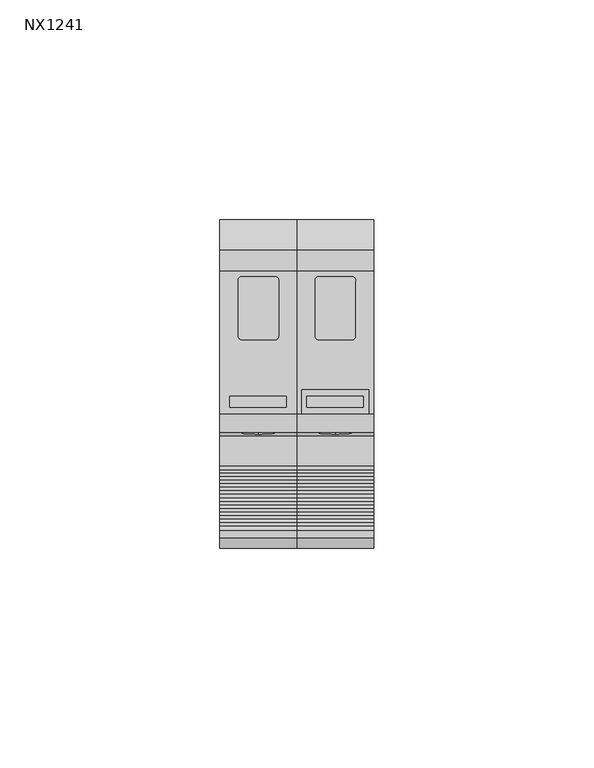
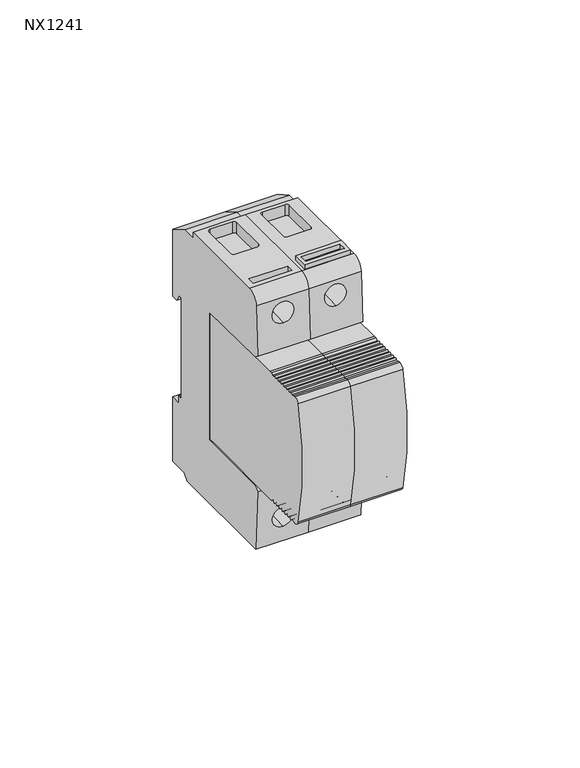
"""IFC4 building model written with IfcOpenShell, lengths in millimetres: proxy geometry, КНС_УЗИП_классI+II_DKC : NX1241."""

from ifc_helpers import new_model, si_unit, point, frame, frame_2d, origin, place, context, project, spatial, polyline, circle_curve, ellipse_curve, trimmed, segment, composite_curve, outline, extrude, source, transform, mapped, element, save
from ifc_brep_helpers import plane_surface, cylinder_surface, revolved_surface, advanced_brep


def nx1241_6f42e53b(model_context):
    return source(origin(), model_context, "Body", "SolidModel", [
        advanced_brep(
        [(52.5, 1.2, 17.438194), (52.5, 2.7207259, 14.938194), (52.5, 5.0, 14.938194), (52.5, 5.0, 38.7044771), (52.5, -1.7972569, 42.6288752), (52.5, -6.7, 42.5860896), (52.5, -6.6806922, 44.688194), (52.5, -39.1559657, 44.688194), (52.5, -43.2612234, 40.8404952), (52.5, -44.1501875, 23.5687496), (52.5, -42.5975423, 22.4685618), (52.5, -16.1999972, 22.2381939), (52.5, -16.1999972, -22.861806), (52.5, -42.5975423, -23.0921739), (52.5, -44.149783, -24.192075), (52.5, -43.0654073, -45.2646007), (52.5, -3.2721098, -45.2646007), (52.5, -1.6937526, -43.2533905), (52.5, 5.0, -43.311806), (52.5, 5.0, -20.561806), (52.5, 1.5, -20.561806), (52.5, 1.5, -18.061806), (52.5, 0.0, -18.061806), (52.5, 0.0, 17.438194), (35.0, 1.2, 17.438194), (35.0, 0.0, 17.438194), (35.0, 0.0, -18.061806), (35.0, 1.5, -18.061806), (35.0, 1.5, -20.561806), (35.0, 5.0, -20.561806), (35.0, 5.0, -43.311806), (35.0, -1.6937526, -43.2533905), (35.0, -3.2721098, -45.2646007), (35.0, -43.0654073, -45.2646007), (35.0, -44.149783, -24.192075), (35.0, -42.5975423, -23.0921739), (35.0, -16.1999972, -22.861806), (35.0, -16.1999972, 22.2381939), (35.0, -42.5975423, 22.4685618), (35.0, -44.1501875, 23.5687496), (35.0, -43.2612234, 40.8404952), (35.0, -39.1559657, 44.688194), (35.0, -6.6806922, 44.688194), (35.0, -6.7, 42.5860896), (35.0, -1.7972569, 42.6288752), (35.0, 5.0, 38.7044771), (35.0, 5.0, 14.938194), (35.0, 2.7207259, 14.938194), (37.251655, -35.102599, 44.688194), (50.147402, -35.102599, 44.688194), (50.1473955, -37.6473987, 44.688194), (37.2596285, -37.6473987, 44.688194), (39.1464467, -8.7059631, 44.688194), (39.9559631, -7.8964466, 44.688194), (47.543988, -7.8964466, 44.688194), (48.3535534, -8.9059631, 44.688194), (48.3535534, -21.4940369, 44.688194), (47.5440369, -22.3035534, 44.688194), (39.9559631, -22.3035534, 44.688194), (39.1464467, -21.2943613, 44.688194), (43.75, -43.7122623, 32.0772292), (43.75, -43.3399564, 39.3107864), (43.75, -43.3425137, -39.8796286), (43.75, -43.7053358, -32.8289577), (50.147402, -35.102599, 40.688194), (37.251655, -35.102599, 40.688194), (37.2596285, -37.6473987, 40.688194), (50.1473955, -37.6473987, 40.688194), (43.75, -32.0563306, 32.6770343), (43.75, -32.241464, 36.2747068), (43.75, -32.4265974, 39.8723793), (43.75, -28.3623348, -39.1087603), (43.75, -28.5437458, -35.5834249), (43.75, -28.7251568, -32.0580894), (39.9559631, -7.8964466, 40.688194), (39.1464467, -8.7059631, 40.688194), (39.1464467, -21.2943613, 40.688194), (39.9559631, -22.3035534, 40.688194), (47.5440369, -22.3035534, 40.688194), (48.3535534, -21.4940369, 40.688194), (48.3535534, -8.9059631, 40.688194), (47.543988, -7.8964466, 40.688194)],
        [
            (0, 1),
            (1, 2),
            (2, 3),
            (3, 4),
            (4, 5),
            (5, 6),
            (6, 7),
            (7, 8, circle_curve(frame((52.5, -39.1559657, 40.574316), z_axis=(1.0, 0.0, 0.0), x_axis=(0.0, -1.0, 0.0)), 4.113878)),
            (8, 9),
            (9, 10),
            (10, 11),
            (11, 12),
            (12, 13),
            (13, 14),
            (14, 15),
            (15, 16),
            (16, 17),
            (17, 18),
            (18, 19),
            (19, 20),
            (20, 21),
            (21, 22),
            (22, 23),
            (23, 0),
            (24, 25),
            (25, 26),
            (26, 27),
            (27, 28),
            (28, 29),
            (29, 30),
            (30, 31),
            (31, 32),
            (32, 33),
            (33, 34),
            (34, 35),
            (35, 36),
            (36, 37),
            (37, 38),
            (38, 39),
            (39, 40),
            (40, 41, circle_curve(frame((35.0, -39.1559657, 40.574316), z_axis=(-1.0, 0.0, 0.0), x_axis=(0.0, -1.0, 0.0)), 4.113878)),
            (41, 42),
            (42, 43),
            (43, 44),
            (44, 45),
            (45, 46),
            (46, 47),
            (47, 24),
            (0, 24),
            (47, 1),
            (46, 2),
            (45, 3),
            (44, 4),
            (43, 5),
            (42, 6),
            (41, 7),
            (48, 49),
            (49, 50),
            (50, 51),
            (51, 48),
            (52, 53, circle_curve(frame((39.9559631, -8.7059631, 44.688194), z_axis=(0.0, 0.0, -1.0), x_axis=(1.0, 0.0, 0.0)), 0.8095165)),
            (53, 54),
            (54, 55, circle_curve(frame((47.543988, -8.7258138, 44.688194), z_axis=(0.0, 0.0, -1.0), x_axis=(1.0, 0.0, 0.0)), 0.8293672)),
            (55, 56),
            (56, 57, circle_curve(frame((47.5440369, -21.4940369, 44.688194), z_axis=(0.0, 0.0, -1.0), x_axis=(1.0, 0.0, 0.0)), 0.8095165)),
            (57, 58),
            (58, 59, circle_curve(frame((40.1802649, -21.2943613, 44.688194), z_axis=(0.0, 0.0, -1.0), x_axis=(1.0, 0.0, 0.0)), 1.0338181)),
            (59, 52),
            (40, 8),
            (39, 9),
            (60, 61, ellipse_curve(frame((43.75, -43.5261093, 35.6940078), z_axis=(0.0, 0.9986780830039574, -0.05140123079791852), x_axis=(0.0, -0.0514012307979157, -0.9986780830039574)), 3.621566, 3.6024328)),
            (61, 60, ellipse_curve(frame((43.75, -43.5261093, 35.6940078), z_axis=(0.0, 0.9986780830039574, -0.05140123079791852), x_axis=(0.0, -0.0514012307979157, -0.9986780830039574)), 3.621566, 3.6024328)),
            (38, 10),
            (37, 11),
            (36, 12),
            (35, 13),
            (34, 14),
            (33, 15),
            (62, 63, circle_curve(frame((43.75, -43.5239247, -36.3542932), z_axis=(0.0, 0.9986785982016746, 0.051391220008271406), x_axis=(0.0, -0.05139122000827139, 0.9986785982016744)), 3.53)),
            (63, 62, circle_curve(frame((43.75, -43.5239247, -36.3542932), z_axis=(0.0, 0.9986785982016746, 0.051391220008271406), x_axis=(0.0, -0.05139122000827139, 0.9986785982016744)), 3.53)),
            (32, 16),
            (31, 17),
            (30, 18),
            (29, 19),
            (28, 20),
            (27, 21),
            (26, 22),
            (25, 23),
            (64, 65),
            (65, 66),
            (66, 67),
            (67, 64),
            (64, 49),
            (48, 65),
            (51, 66),
            (50, 67),
            (68, 69),
            (69, 70),
            (70, 68, circle_curve(frame((43.75, -32.241464, 36.2747068), z_axis=(0.0, -0.9986785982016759, -0.051391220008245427), x_axis=(0.0, -0.05139122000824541, 0.9986785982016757)), 3.6024328)),
            (68, 70, circle_curve(frame((43.75, -32.241464, 36.2747068), z_axis=(0.0, -0.9986785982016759, -0.051391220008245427), x_axis=(0.0, -0.05139122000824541, 0.9986785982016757)), 3.6024328)),
            (70, 61),
            (60, 68),
            (71, 72),
            (72, 73),
            (73, 71, circle_curve(frame((43.75, -28.5437458, -35.5834249), z_axis=(0.0, -0.9986785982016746, -0.051391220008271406), x_axis=(0.0, -0.05139122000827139, 0.9986785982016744)), 3.53)),
            (71, 73, circle_curve(frame((43.75, -28.5437458, -35.5834249), z_axis=(0.0, -0.9986785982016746, -0.051391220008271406), x_axis=(0.0, -0.05139122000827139, 0.9986785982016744)), 3.53)),
            (73, 63),
            (62, 71),
            (74, 75, circle_curve(frame((39.9559631, -8.7059631, 40.688194), z_axis=(0.0, 0.0, 1.0), x_axis=(1.0, 0.0, 0.0)), 0.8095165)),
            (75, 76),
            (76, 77, circle_curve(frame((40.1802649, -21.2943613, 40.688194), z_axis=(0.0, 0.0, 1.0), x_axis=(1.0, 0.0, 0.0)), 1.0338181)),
            (77, 78),
            (78, 79, circle_curve(frame((47.5440369, -21.4940369, 40.688194), z_axis=(0.0, 0.0, 1.0), x_axis=(1.0, 0.0, 0.0)), 0.8095165)),
            (79, 80),
            (80, 81, circle_curve(frame((47.543988, -8.7258138, 40.688194), z_axis=(0.0, 0.0, 1.0), x_axis=(1.0, 0.0, 0.0)), 0.8293672)),
            (81, 74),
            (74, 53),
            (52, 75),
            (59, 76),
            (58, 77),
            (57, 78),
            (56, 79),
            (55, 80),
            (54, 81),
        ],
        [
            plane_surface(frame((52.5, 1.2, 17.438194), z_axis=(1.0, 0.0, 0.0), x_axis=(0.0, 0.5196942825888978, -0.8543523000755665))),
            plane_surface(frame((35.0, 1.2, 17.438194), z_axis=(-1.0, 0.0, 0.0), x_axis=(0.0, -0.5196942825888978, 0.8543523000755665))),
            plane_surface(frame((52.5, 1.2, 17.438194), z_axis=(0.0, -0.8543523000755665, -0.5196942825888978), x_axis=(-1.0, 0.0, 0.0))),
            plane_surface(frame((52.5, 2.7207259, 14.938194), z_axis=(0.0, 0.0, -1.0), x_axis=(-1.0, 0.0, 0.0))),
            plane_surface(frame((52.5, 5.0, 14.938194), z_axis=(0.0, 1.0, 0.0), x_axis=(-1.0, 0.0, 0.0))),
            plane_surface(frame((52.5, 5.0, 38.7044771), z_axis=(0.0, 0.49999999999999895, 0.8660254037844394), x_axis=(-1.0, 0.0, 0.0))),
            plane_surface(frame((52.5, -1.7972569, 42.6288752), z_axis=(0.0, -0.008726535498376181, 0.9999619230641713), x_axis=(-1.0, 0.0, 0.0))),
            plane_surface(frame((52.5, -6.7, 42.5860896), z_axis=(0.0, 0.9999578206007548, -0.009184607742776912), x_axis=(-1.0, 0.0, 0.0))),
            plane_surface(frame((52.5, -6.6806922, 44.688194), z_axis=(0.0, 0.0, 1.0), x_axis=(-1.0, 0.0, 0.0))),
            cylinder_surface(frame((35.0, -39.1559657, 40.574316), z_axis=(1.0, 0.0, 0.0), x_axis=(0.0, -1.0, 0.0)), 4.113878),
            plane_surface(frame((52.5, -43.2612234, 40.8404952), z_axis=(0.0, -0.9986780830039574, 0.05140123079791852), x_axis=(-1.0, 0.0, 0.0))),
            plane_surface(frame((52.5, -44.1501875, 23.5687496), z_axis=(0.0, -0.5781564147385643, -0.8159259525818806), x_axis=(-1.0, 0.0, 0.0))),
            plane_surface(frame((52.5, -42.5975423, 22.4685618), z_axis=(0.0, -0.00872653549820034, -0.9999619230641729), x_axis=(-1.0, 0.0, 0.0))),
            plane_surface(frame((52.5, -16.1999972, 22.2381939), z_axis=(0.0, -1.0, 0.0), x_axis=(-1.0, 0.0, 0.0))),
            plane_surface(frame((52.5, -16.1999972, -22.861806), z_axis=(0.0, -0.008726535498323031, 0.9999619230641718), x_axis=(-1.0, 0.0, 0.0))),
            plane_surface(frame((52.5, -42.5975423, -23.0921739), z_axis=(0.0, -0.5781564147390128, 0.8159259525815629), x_axis=(-1.0, 0.0, 0.0))),
            plane_surface(frame((52.5, -44.149783, -24.192075), z_axis=(0.0, -0.9986785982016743, -0.05139122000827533), x_axis=(-1.0, 0.0, 0.0))),
            plane_surface(frame((52.5, -43.0654073, -45.2646007), z_axis=(0.0, 0.0, -1.0), x_axis=(-1.0, 0.0, 0.0))),
            plane_surface(frame((52.5, -3.2721098, -45.2646007), z_axis=(0.0, 0.7866753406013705, -0.6173669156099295), x_axis=(-1.0, 0.0, 0.0))),
            plane_surface(frame((52.5, -1.6937526, -43.2533905), z_axis=(0.0, -0.008726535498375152, -0.9999619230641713), x_axis=(-1.0, 0.0, 0.0))),
            plane_surface(frame((52.5, 5.0, -43.311806), z_axis=(0.0, 1.0, 0.0), x_axis=(-1.0, 0.0, 0.0))),
            plane_surface(frame((52.5, 5.0, -20.561806), z_axis=(0.0, 0.0, 1.0), x_axis=(-1.0, 0.0, 0.0))),
            plane_surface(frame((52.5, 1.5, -20.561806), z_axis=(0.0, 1.0, 0.0), x_axis=(-1.0, 0.0, 0.0))),
            plane_surface(frame((52.5, 1.5, -18.061806), z_axis=(0.0, 0.0, 1.0), x_axis=(-1.0, 0.0, 0.0))),
            plane_surface(frame((52.5, 0.0, -18.061806), z_axis=(0.0, 1.0, 0.0), x_axis=(-1.0, 0.0, 0.0))),
            plane_surface(frame((52.5, 0.0, 17.438194), z_axis=(0.0, 0.0, -1.0), x_axis=(-1.0, 0.0, 0.0))),
            plane_surface(frame((37.5525837, -35.102599, 40.688194), z_axis=(0.0, 0.0, 1.0), x_axis=(1.0, 0.0, 0.0))),
            plane_surface(frame((50.147402, -35.102599, 51.9501742), z_axis=(0.0, -1.0, 0.0), x_axis=(0.0, 0.0, -1.0))),
            plane_surface(frame((37.251655, -35.102599, 51.9501742), z_axis=(0.9999950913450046, 0.003133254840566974, 0.0), x_axis=(0.0, 0.0, -1.0))),
            plane_surface(frame((37.2596285, -37.6473987, 51.9501742), z_axis=(0.0, 1.0, 0.0), x_axis=(0.0, 0.0, -1.0))),
            plane_surface(frame((50.1473955, -37.6473987, 51.9501742), z_axis=(-0.9999999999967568, 2.546850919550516e-06, 0.0), x_axis=(0.0, 0.0, -1.0))),
            plane_surface(frame((43.75, -32.241464, 36.2747068), z_axis=(0.0, -0.9986785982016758, -0.05139122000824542), x_axis=(0.0, -0.05139122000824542, 0.9986785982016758))),
            revolved_surface(polyline([(43.75, -44.082529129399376, 39.27257420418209), (43.75, -32.42659740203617, 39.872379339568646)]), (43.75, -32.241464, 36.2747068), (0.0, -0.9986785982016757, -0.05139122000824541)),
            plane_surface(frame((43.75, -28.5437458, -35.5834249), z_axis=(0.0, -0.9986785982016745, -0.0513912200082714), x_axis=(0.0, -0.0513912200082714, 0.9986785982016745))),
            revolved_surface(polyline([(43.75, -43.70533579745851, -32.828957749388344), (43.75, -28.725156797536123, -32.058089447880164)]), (43.75, -28.5437458, -35.5834249), (0.0, -0.9986785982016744, -0.05139122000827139)),
            plane_surface(frame((40.7654796, -8.7059631, 40.688194), z_axis=(0.0, 0.0, 1.0), x_axis=(0.0, -1.0, 0.0))),
            revolved_surface(polyline([(40.7654796, -8.7059631, 44.688194), (40.7654796, -8.7059631, 40.688194)]), (39.9559631, -8.7059631, 40.688194), (0.0, 0.0, 1.0)),
            plane_surface(frame((39.1464467, -8.7059631, 44.688194), z_axis=(1.0, 0.0, 0.0), x_axis=(0.0, 0.0, -1.0))),
            revolved_surface(polyline([(41.214082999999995, -21.2943613, 44.688194), (41.214082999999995, -21.2943613, 40.688194)]), (40.1802649, -21.2943613, 40.688194), (0.0, 0.0, 1.0)),
            plane_surface(frame((39.9559631, -22.3035534, 44.688194), z_axis=(0.0, 1.0, 0.0), x_axis=(0.0, 0.0, -1.0))),
            revolved_surface(polyline([(48.3535534, -21.4940369, 44.688194), (48.3535534, -21.4940369, 40.688194)]), (47.5440369, -21.4940369, 40.688194), (0.0, 0.0, 1.0)),
            plane_surface(frame((48.3535534, -21.4940369, 44.688194), z_axis=(-1.0, 0.0, 0.0), x_axis=(0.0, 0.0, -1.0))),
            revolved_surface(polyline([(48.3733552, -8.7258138, 44.688194), (48.3733552, -8.7258138, 40.688194)]), (47.543988, -8.7258138, 40.688194), (0.0, 0.0, 1.0)),
            plane_surface(frame((47.543988, -7.8964466, 44.688194), z_axis=(1.8937241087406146e-10, -1.0, 0.0), x_axis=(0.0, 0.0, -1.0))),
        ],
        [
            (0, [[1, 2, 3, 4, 5, 6, 7, 8, 9, 10, 11, 12, 13, 14, 15, 16, 17, 18, 19, 20, 21, 22, 23, 24]]),
            (1, [[25, 26, 27, 28, 29, 30, 31, 32, 33, 34, 35, 36, 37, 38, 39, 40, 41, 42, 43, 44, 45, 46, 47, 48]]),
            (2, [[-1, 49, -48, 50]]),
            (3, [[-2, -50, -47, 51]]),
            (4, [[-3, -51, -46, 52]]),
            (5, [[-4, -52, -45, 53]]),
            (6, [[-5, -53, -44, 54]]),
            (7, [[-6, -54, -43, 55]]),
            (8, [[-7, -55, -42, 56], [57, 58, 59, 60], [61, 62, 63, 64, 65, 66, 67, 68]]),
            (9, [[-8, -56, -41, 69]]),
            (10, [[-9, -69, -40, 70], [71, 72]]),
            (11, [[-10, -70, -39, 73]]),
            (12, [[-11, -73, -38, 74]]),
            (13, [[-12, -74, -37, 75]]),
            (14, [[-13, -75, -36, 76]]),
            (15, [[-14, -76, -35, 77]]),
            (16, [[-15, -77, -34, 78], [79, 80]]),
            (17, [[-16, -78, -33, 81]]),
            (18, [[-17, -81, -32, 82]]),
            (19, [[-18, -82, -31, 83]]),
            (20, [[-19, -83, -30, 84]]),
            (21, [[-20, -84, -29, 85]]),
            (22, [[-21, -85, -28, 86]]),
            (23, [[-22, -86, -27, 87]]),
            (24, [[-23, -87, -26, 88]]),
            (25, [[-24, -88, -25, -49]]),
            (26, [[89, 90, 91, 92]]),
            (27, [[-89, 93, -57, 94]]),
            (28, [[-90, -94, -60, 95]]),
            (29, [[-91, -95, -59, 96]]),
            (30, [[-92, -96, -58, -93]]),
            (31, [[97, 98, 99]]),
            (31, [[-97, 100, -98]]),
            (32, [[-99, 101, -71, 102]]),
            (32, [[-100, -102, -72, -101]]),
            (33, [[103, 104, 105]]),
            (33, [[-103, 106, -104]]),
            (34, [[-105, 107, -79, 108]]),
            (34, [[-106, -108, -80, -107]]),
            (35, [[109, 110, 111, 112, 113, 114, 115, 116]]),
            (36, [[-109, 117, -61, 118]]),
            (37, [[-110, -118, -68, 119]]),
            (38, [[-111, -119, -67, 120]]),
            (39, [[-112, -120, -66, 121]]),
            (40, [[-113, -121, -65, 122]]),
            (41, [[-114, -122, -64, 123]]),
            (42, [[-115, -123, -63, 124]]),
            (43, [[-116, -124, -62, -117]]),
        ],
    ),
        extrude(outline(composite_curve([segment(polyline([(-20.9549972, 22.238194), (-16.1999972, 22.238194), (-16.1999972, -22.238194), (-20.9549972, -22.238194), (-50.9549972, -22.5), (-51.8409232, -22.5)]), True, "CONTINUOUS"), segment(trimmed(circle_curve(frame_2d((-51.8159676, -21.704458)), 0.7959333), [point((-51.8409232, -22.5))], [point((-52.5549972, -22.0))], False, "CARTESIAN"), True, "CONTINUOUS"), segment(polyline([(-52.5549972, -22.0), (-53.3549972, -22.0)]), True, "CONTINUOUS"), segment(trimmed(circle_curve(frame_2d((-53.7549972, -22.0)), 0.4), [point((-53.3549972, -22.0))], [point((-54.1549972, -22.0))], False, "CARTESIAN"), True, "CONTINUOUS"), segment(polyline([(-54.1549972, -22.0), (-54.9549972, -22.0)]), True, "CONTINUOUS"), segment(trimmed(circle_curve(frame_2d((-55.3549972, -22.0)), 0.4), [point((-54.9549972, -22.0))], [point((-55.7549972, -22.0))], False, "CARTESIAN"), True, "CONTINUOUS"), segment(polyline([(-55.7549972, -22.0), (-56.5549972, -22.0)]), True, "CONTINUOUS"), segment(trimmed(circle_curve(frame_2d((-56.9549972, -22.0)), 0.4), [point((-56.5549972, -22.0))], [point((-57.3549972, -22.0))], False, "CARTESIAN"), True, "CONTINUOUS"), segment(polyline([(-57.3549972, -22.0), (-58.1549972, -22.0)]), True, "CONTINUOUS"), segment(trimmed(circle_curve(frame_2d((-58.5549972, -22.0)), 0.4), [point((-58.1549972, -22.0))], [point((-58.9549972, -22.0))], False, "CARTESIAN"), True, "CONTINUOUS"), segment(polyline([(-58.9549972, -22.0), (-59.7549972, -22.0)]), True, "CONTINUOUS"), segment(trimmed(circle_curve(frame_2d((-60.1549972, -22.0)), 0.4), [point((-59.7549972, -22.0))], [point((-60.5549972, -22.0))], False, "CARTESIAN"), True, "CONTINUOUS"), segment(polyline([(-60.5549972, -22.0), (-61.3549972, -22.0)]), True, "CONTINUOUS"), segment(trimmed(circle_curve(frame_2d((-61.7549972, -22.0)), 0.4), [point((-61.3549972, -22.0))], [point((-62.1549972, -22.0))], False, "CARTESIAN"), True, "CONTINUOUS"), segment(polyline([(-62.1549972, -22.0), (-62.9549972, -22.0)]), True, "CONTINUOUS"), segment(trimmed(circle_curve(frame_2d((-63.3549972, -22.0)), 0.4), [point((-62.9549972, -22.0))], [point((-63.7549972, -22.0))], False, "CARTESIAN"), True, "CONTINUOUS"), segment(polyline([(-63.7549972, -22.0), (-64.5549972, -22.0)]), True, "CONTINUOUS"), segment(trimmed(circle_curve(frame_2d((-65.6169646, -20.2703757)), 2.0296243), [point((-64.5549972, -22.0))], [point((-65.6169646, -22.3))], False, "CARTESIAN"), True, "CONTINUOUS"), segment(trimmed(circle_curve(frame_2d((-65.6408544, -20.5391615)), 1.7610005), [point((-65.6169646, -22.3))], [point((-67.3551679, -20.9419667))], False, "CARTESIAN"), True, "CONTINUOUS"), segment(trimmed(circle_curve(frame_2d((15.9165985, 0.0)), 85.8647369), [point((-67.3551679, -20.9419667))], [point((-67.3551679, 20.9419667))], False, "CARTESIAN"), True, "CONTINUOUS"), segment(trimmed(circle_curve(frame_2d((-65.6408544, 20.5391615)), 1.7610005), [point((-67.3551679, 20.9419667))], [point((-65.6169646, 22.3))], False, "CARTESIAN"), True, "CONTINUOUS"), segment(trimmed(circle_curve(frame_2d((-65.6169646, 20.2703757)), 2.0296243), [point((-65.6169646, 22.3))], [point((-64.5549972, 22.0))], False, "CARTESIAN"), True, "CONTINUOUS"), segment(polyline([(-64.5549972, 22.0), (-63.7549972, 22.0)]), True, "CONTINUOUS"), segment(trimmed(circle_curve(frame_2d((-63.3549972, 22.0)), 0.4), [point((-63.7549972, 22.0))], [point((-62.9549972, 22.0))], False, "CARTESIAN"), True, "CONTINUOUS"), segment(polyline([(-62.9549972, 22.0), (-62.1549972, 22.0)]), True, "CONTINUOUS"), segment(trimmed(circle_curve(frame_2d((-61.7549972, 22.0)), 0.4), [point((-62.1549972, 22.0))], [point((-61.3549972, 22.0))], False, "CARTESIAN"), True, "CONTINUOUS"), segment(polyline([(-61.3549972, 22.0), (-60.5549972, 22.0)]), True, "CONTINUOUS"), segment(trimmed(circle_curve(frame_2d((-60.1549972, 22.0)), 0.4), [point((-60.5549972, 22.0))], [point((-59.7549972, 22.0))], False, "CARTESIAN"), True, "CONTINUOUS"), segment(polyline([(-59.7549972, 22.0), (-58.9549972, 22.0)]), True, "CONTINUOUS"), segment(trimmed(circle_curve(frame_2d((-58.5549972, 22.0)), 0.4), [point((-58.9549972, 22.0))], [point((-58.1549972, 22.0))], False, "CARTESIAN"), True, "CONTINUOUS"), segment(polyline([(-58.1549972, 22.0), (-57.3549972, 22.0)]), True, "CONTINUOUS"), segment(trimmed(circle_curve(frame_2d((-56.9549972, 22.0)), 0.4), [point((-57.3549972, 22.0))], [point((-56.5549972, 22.0))], False, "CARTESIAN"), True, "CONTINUOUS"), segment(polyline([(-56.5549972, 22.0), (-55.7549972, 22.0)]), True, "CONTINUOUS"), segment(trimmed(circle_curve(frame_2d((-55.3549972, 22.0)), 0.4), [point((-55.7549972, 22.0))], [point((-54.9549972, 22.0))], False, "CARTESIAN"), True, "CONTINUOUS"), segment(polyline([(-54.9549972, 22.0), (-54.1549972, 22.0)]), True, "CONTINUOUS"), segment(trimmed(circle_curve(frame_2d((-53.7549972, 22.0)), 0.4), [point((-54.1549972, 22.0))], [point((-53.3549972, 22.0))], False, "CARTESIAN"), True, "CONTINUOUS"), segment(polyline([(-53.3549972, 22.0), (-52.5549972, 22.0)]), True, "CONTINUOUS"), segment(trimmed(circle_curve(frame_2d((-51.8159676, 21.704458)), 0.7959333), [point((-52.5549972, 22.0))], [point((-51.8409232, 22.5))], False, "CARTESIAN"), True, "CONTINUOUS"), segment(polyline([(-51.8409232, 22.5), (-50.9549972, 22.5), (-20.9549972, 22.238194)]), True, "CONTINUOUS")], self_intersect=False)), frame((35.0, 0.0, 0.0), z_axis=(1.0, 0.0, 0.0), x_axis=(0.0, 1.0, 0.0)), (0.0, 0.0, 1.0), 17.5),
        extrude(outline(polyline([(53.6422597, -33.6922597), (68.8577403, -33.6922597), (68.8577403, -39.0669933), (53.6422597, -39.0669933), (53.6422597, -33.6922597)]), holes=[polyline([(67.647402, -35.102599), (54.751655, -35.102599), (54.7596285, -37.6473987), (67.6473955, -37.6473987), (67.647402, -35.102599)])]), frame((0.0, 0.0, 44.688194), z_axis=(0.0, 0.0, 1.0), x_axis=(1.0, 0.0, 0.0)), (0.0, 0.0, 1.0), 1.65),
        advanced_brep(
        [(70.0, 1.2, 17.438194), (70.0, 2.7207259, 14.938194), (70.0, 5.0, 14.938194), (70.0, 5.0, 38.7044771), (70.0, -1.7972569, 42.6288752), (70.0, -6.7, 42.5860896), (70.0, -6.6806922, 44.688194), (70.0, -39.1559657, 44.688194), (70.0, -43.2612234, 40.8404952), (70.0, -44.1501875, 23.5687496), (70.0, -42.5975423, 22.4685618), (70.0, -16.1999972, 22.2381939), (70.0, -16.1999972, -22.861806), (70.0, -42.5975423, -23.0921739), (70.0, -44.149783, -24.192075), (70.0, -43.0654073, -45.2646007), (70.0, -3.2721098, -45.2646007), (70.0, -1.6937526, -43.2533905), (70.0, 5.0, -43.311806), (70.0, 5.0, -20.561806), (70.0, 1.5, -20.561806), (70.0, 1.5, -18.061806), (70.0, 0.0, -18.061806), (70.0, 0.0, 17.438194), (52.5, 1.2, 17.438194), (52.5, 0.0, 17.438194), (52.5, 0.0, -18.061806), (52.5, 1.5, -18.061806), (52.5, 1.5, -20.561806), (52.5, 5.0, -20.561806), (52.5, 5.0, -43.311806), (52.5, -1.6937526, -43.2533905), (52.5, -3.2721098, -45.2646007), (52.5, -43.0654073, -45.2646007), (52.5, -44.149783, -24.192075), (52.5, -42.5975423, -23.0921739), (52.5, -16.1999972, -22.861806), (52.5, -16.1999972, 22.2381939), (52.5, -42.5975423, 22.4685618), (52.5, -44.1501875, 23.5687496), (52.5, -43.2612234, 40.8404952), (52.5, -39.1559657, 44.688194), (52.5, -6.6806922, 44.688194), (52.5, -6.7, 42.5860896), (52.5, -1.7972569, 42.6288752), (52.5, 5.0, 38.7044771), (52.5, 5.0, 14.938194), (52.5, 2.7207259, 14.938194), (54.751655, -35.102599, 44.688194), (67.647402, -35.102599, 44.688194), (67.6473955, -37.6473987, 44.688194), (54.7596285, -37.6473987, 44.688194), (56.6464467, -8.7059631, 44.688194), (57.4559631, -7.8964466, 44.688194), (65.043988, -7.8964466, 44.688194), (65.8535534, -8.9059631, 44.688194), (65.8535534, -21.4940369, 44.688194), (65.0440369, -22.3035534, 44.688194), (57.4559631, -22.3035534, 44.688194), (56.6464467, -21.2943613, 44.688194), (61.25, -43.7122623, 32.0772292), (61.25, -43.3399564, 39.3107864), (61.25, -43.3425137, -39.8796286), (61.25, -43.7053358, -32.8289577), (67.647402, -35.102599, 40.688194), (54.751655, -35.102599, 40.688194), (54.7596285, -37.6473987, 40.688194), (67.6473955, -37.6473987, 40.688194), (61.25, -32.0563306, 32.6770343), (61.25, -32.241464, 36.2747068), (61.25, -32.4265974, 39.8723793), (61.25, -28.3623348, -39.1087603), (61.25, -28.5437458, -35.5834249), (61.25, -28.7251568, -32.0580894), (57.4559631, -7.8964466, 40.688194), (56.6464467, -8.7059631, 40.688194), (56.6464467, -21.2943613, 40.688194), (57.4559631, -22.3035534, 40.688194), (65.0440369, -22.3035534, 40.688194), (65.8535534, -21.4940369, 40.688194), (65.8535534, -8.9059631, 40.688194), (65.043988, -7.8964466, 40.688194)],
        [
            (0, 1),
            (1, 2),
            (2, 3),
            (3, 4),
            (4, 5),
            (5, 6),
            (6, 7),
            (7, 8, circle_curve(frame((70.0, -39.1559657, 40.574316), z_axis=(1.0, 0.0, 0.0), x_axis=(0.0, -1.0, 0.0)), 4.113878)),
            (8, 9),
            (9, 10),
            (10, 11),
            (11, 12),
            (12, 13),
            (13, 14),
            (14, 15),
            (15, 16),
            (16, 17),
            (17, 18),
            (18, 19),
            (19, 20),
            (20, 21),
            (21, 22),
            (22, 23),
            (23, 0),
            (24, 25),
            (25, 26),
            (26, 27),
            (27, 28),
            (28, 29),
            (29, 30),
            (30, 31),
            (31, 32),
            (32, 33),
            (33, 34),
            (34, 35),
            (35, 36),
            (36, 37),
            (37, 38),
            (38, 39),
            (39, 40),
            (40, 41, circle_curve(frame((52.5, -39.1559657, 40.574316), z_axis=(-1.0, 0.0, 0.0), x_axis=(0.0, -1.0, 0.0)), 4.113878)),
            (41, 42),
            (42, 43),
            (43, 44),
            (44, 45),
            (45, 46),
            (46, 47),
            (47, 24),
            (0, 24),
            (47, 1),
            (46, 2),
            (45, 3),
            (44, 4),
            (43, 5),
            (42, 6),
            (41, 7),
            (48, 49),
            (49, 50),
            (50, 51),
            (51, 48),
            (52, 53, circle_curve(frame((57.4559631, -8.7059631, 44.688194), z_axis=(0.0, 0.0, -1.0), x_axis=(1.0, 0.0, 0.0)), 0.8095165)),
            (53, 54),
            (54, 55, circle_curve(frame((65.043988, -8.7258138, 44.688194), z_axis=(0.0, 0.0, -1.0), x_axis=(1.0, 0.0, 0.0)), 0.8293672)),
            (55, 56),
            (56, 57, circle_curve(frame((65.0440369, -21.4940369, 44.688194), z_axis=(0.0, 0.0, -1.0), x_axis=(1.0, 0.0, 0.0)), 0.8095165)),
            (57, 58),
            (58, 59, circle_curve(frame((57.6802649, -21.2943613, 44.688194), z_axis=(0.0, 0.0, -1.0), x_axis=(1.0, 0.0, 0.0)), 1.0338181)),
            (59, 52),
            (40, 8),
            (39, 9),
            (60, 61, ellipse_curve(frame((61.25, -43.5261093, 35.6940078), z_axis=(0.0, 0.9986780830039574, -0.05140123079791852), x_axis=(0.0, -0.0514012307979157, -0.9986780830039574)), 3.621566, 3.6024328)),
            (61, 60, ellipse_curve(frame((61.25, -43.5261093, 35.6940078), z_axis=(0.0, 0.9986780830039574, -0.05140123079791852), x_axis=(0.0, -0.0514012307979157, -0.9986780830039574)), 3.621566, 3.6024328)),
            (38, 10),
            (37, 11),
            (36, 12),
            (35, 13),
            (34, 14),
            (33, 15),
            (62, 63, circle_curve(frame((61.25, -43.5239247, -36.3542932), z_axis=(0.0, 0.9986785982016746, 0.051391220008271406), x_axis=(0.0, -0.05139122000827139, 0.9986785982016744)), 3.53)),
            (63, 62, circle_curve(frame((61.25, -43.5239247, -36.3542932), z_axis=(0.0, 0.9986785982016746, 0.051391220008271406), x_axis=(0.0, -0.05139122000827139, 0.9986785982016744)), 3.53)),
            (32, 16),
            (31, 17),
            (30, 18),
            (29, 19),
            (28, 20),
            (27, 21),
            (26, 22),
            (25, 23),
            (64, 65),
            (65, 66),
            (66, 67),
            (67, 64),
            (64, 49),
            (48, 65),
            (51, 66),
            (50, 67),
            (68, 69),
            (69, 70),
            (70, 68, circle_curve(frame((61.25, -32.241464, 36.2747068), z_axis=(0.0, -0.9986785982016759, -0.051391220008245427), x_axis=(0.0, -0.05139122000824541, 0.9986785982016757)), 3.6024328)),
            (68, 70, circle_curve(frame((61.25, -32.241464, 36.2747068), z_axis=(0.0, -0.9986785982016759, -0.051391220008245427), x_axis=(0.0, -0.05139122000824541, 0.9986785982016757)), 3.6024328)),
            (70, 61),
            (60, 68),
            (71, 72),
            (72, 73),
            (73, 71, circle_curve(frame((61.25, -28.5437458, -35.5834249), z_axis=(0.0, -0.9986785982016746, -0.051391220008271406), x_axis=(0.0, -0.05139122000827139, 0.9986785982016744)), 3.53)),
            (71, 73, circle_curve(frame((61.25, -28.5437458, -35.5834249), z_axis=(0.0, -0.9986785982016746, -0.051391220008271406), x_axis=(0.0, -0.05139122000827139, 0.9986785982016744)), 3.53)),
            (73, 63),
            (62, 71),
            (74, 75, circle_curve(frame((57.4559631, -8.7059631, 40.688194), z_axis=(0.0, 0.0, 1.0), x_axis=(1.0, 0.0, 0.0)), 0.8095165)),
            (75, 76),
            (76, 77, circle_curve(frame((57.6802649, -21.2943613, 40.688194), z_axis=(0.0, 0.0, 1.0), x_axis=(1.0, 0.0, 0.0)), 1.0338181)),
            (77, 78),
            (78, 79, circle_curve(frame((65.0440369, -21.4940369, 40.688194), z_axis=(0.0, 0.0, 1.0), x_axis=(1.0, 0.0, 0.0)), 0.8095165)),
            (79, 80),
            (80, 81, circle_curve(frame((65.043988, -8.7258138, 40.688194), z_axis=(0.0, 0.0, 1.0), x_axis=(1.0, 0.0, 0.0)), 0.8293672)),
            (81, 74),
            (74, 53),
            (52, 75),
            (59, 76),
            (58, 77),
            (57, 78),
            (56, 79),
            (55, 80),
            (54, 81),
        ],
        [
            plane_surface(frame((70.0, 1.2, 17.438194), z_axis=(1.0, 0.0, 0.0), x_axis=(0.0, 0.5196942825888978, -0.8543523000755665))),
            plane_surface(frame((52.5, 1.2, 17.438194), z_axis=(-1.0, 0.0, 0.0), x_axis=(0.0, -0.5196942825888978, 0.8543523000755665))),
            plane_surface(frame((70.0, 1.2, 17.438194), z_axis=(0.0, -0.8543523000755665, -0.5196942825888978), x_axis=(-1.0, 0.0, 0.0))),
            plane_surface(frame((70.0, 2.7207259, 14.938194), z_axis=(0.0, 0.0, -1.0), x_axis=(-1.0, 0.0, 0.0))),
            plane_surface(frame((70.0, 5.0, 14.938194), z_axis=(0.0, 1.0, 0.0), x_axis=(-1.0, 0.0, 0.0))),
            plane_surface(frame((70.0, 5.0, 38.7044771), z_axis=(0.0, 0.49999999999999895, 0.8660254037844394), x_axis=(-1.0, 0.0, 0.0))),
            plane_surface(frame((70.0, -1.7972569, 42.6288752), z_axis=(0.0, -0.008726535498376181, 0.9999619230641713), x_axis=(-1.0, 0.0, 0.0))),
            plane_surface(frame((70.0, -6.7, 42.5860896), z_axis=(0.0, 0.9999578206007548, -0.009184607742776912), x_axis=(-1.0, 0.0, 0.0))),
            plane_surface(frame((70.0, -6.6806922, 44.688194), z_axis=(0.0, 0.0, 1.0), x_axis=(-1.0, 0.0, 0.0))),
            cylinder_surface(frame((52.5, -39.1559657, 40.574316), z_axis=(1.0, 0.0, 0.0), x_axis=(0.0, -1.0, 0.0)), 4.113878),
            plane_surface(frame((70.0, -43.2612234, 40.8404952), z_axis=(0.0, -0.9986780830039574, 0.05140123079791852), x_axis=(-1.0, 0.0, 0.0))),
            plane_surface(frame((70.0, -44.1501875, 23.5687496), z_axis=(0.0, -0.5781564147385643, -0.8159259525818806), x_axis=(-1.0, 0.0, 0.0))),
            plane_surface(frame((70.0, -42.5975423, 22.4685618), z_axis=(0.0, -0.00872653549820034, -0.9999619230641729), x_axis=(-1.0, 0.0, 0.0))),
            plane_surface(frame((70.0, -16.1999972, 22.2381939), z_axis=(0.0, -1.0, 0.0), x_axis=(-1.0, 0.0, 0.0))),
            plane_surface(frame((70.0, -16.1999972, -22.861806), z_axis=(0.0, -0.008726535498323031, 0.9999619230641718), x_axis=(-1.0, 0.0, 0.0))),
            plane_surface(frame((70.0, -42.5975423, -23.0921739), z_axis=(0.0, -0.5781564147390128, 0.8159259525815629), x_axis=(-1.0, 0.0, 0.0))),
            plane_surface(frame((70.0, -44.149783, -24.192075), z_axis=(0.0, -0.9986785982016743, -0.05139122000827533), x_axis=(-1.0, 0.0, 0.0))),
            plane_surface(frame((70.0, -43.0654073, -45.2646007), z_axis=(0.0, 0.0, -1.0), x_axis=(-1.0, 0.0, 0.0))),
            plane_surface(frame((70.0, -3.2721098, -45.2646007), z_axis=(0.0, 0.7866753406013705, -0.6173669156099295), x_axis=(-1.0, 0.0, 0.0))),
            plane_surface(frame((70.0, -1.6937526, -43.2533905), z_axis=(0.0, -0.008726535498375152, -0.9999619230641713), x_axis=(-1.0, 0.0, 0.0))),
            plane_surface(frame((70.0, 5.0, -43.311806), z_axis=(0.0, 1.0, 0.0), x_axis=(-1.0, 0.0, 0.0))),
            plane_surface(frame((70.0, 5.0, -20.561806), z_axis=(0.0, 0.0, 1.0), x_axis=(-1.0, 0.0, 0.0))),
            plane_surface(frame((70.0, 1.5, -20.561806), z_axis=(0.0, 1.0, 0.0), x_axis=(-1.0, 0.0, 0.0))),
            plane_surface(frame((70.0, 1.5, -18.061806), z_axis=(0.0, 0.0, 1.0), x_axis=(-1.0, 0.0, 0.0))),
            plane_surface(frame((70.0, 0.0, -18.061806), z_axis=(0.0, 1.0, 0.0), x_axis=(-1.0, 0.0, 0.0))),
            plane_surface(frame((70.0, 0.0, 17.438194), z_axis=(0.0, 0.0, -1.0), x_axis=(-1.0, 0.0, 0.0))),
            plane_surface(frame((55.0525837, -35.102599, 40.688194), z_axis=(0.0, 0.0, 1.0), x_axis=(1.0, 0.0, 0.0))),
            plane_surface(frame((67.647402, -35.102599, 51.9501742), z_axis=(0.0, -1.0, 0.0), x_axis=(0.0, 0.0, -1.0))),
            plane_surface(frame((54.751655, -35.102599, 51.9501742), z_axis=(0.9999950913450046, 0.003133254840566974, 0.0), x_axis=(0.0, 0.0, -1.0))),
            plane_surface(frame((54.7596285, -37.6473987, 51.9501742), z_axis=(0.0, 1.0, 0.0), x_axis=(0.0, 0.0, -1.0))),
            plane_surface(frame((67.6473955, -37.6473987, 51.9501742), z_axis=(-0.9999999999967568, 2.546850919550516e-06, 0.0), x_axis=(0.0, 0.0, -1.0))),
            plane_surface(frame((61.25, -32.241464, 36.2747068), z_axis=(0.0, -0.9986785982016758, -0.05139122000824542), x_axis=(0.0, -0.05139122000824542, 0.9986785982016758))),
            revolved_surface(polyline([(61.25, -44.082529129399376, 39.27257420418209), (61.25, -32.42659740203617, 39.872379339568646)]), (61.25, -32.241464, 36.2747068), (0.0, -0.9986785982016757, -0.05139122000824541)),
            plane_surface(frame((61.25, -28.5437458, -35.5834249), z_axis=(0.0, -0.9986785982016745, -0.0513912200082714), x_axis=(0.0, -0.0513912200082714, 0.9986785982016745))),
            revolved_surface(polyline([(61.25, -43.70533579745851, -32.828957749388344), (61.25, -28.725156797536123, -32.058089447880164)]), (61.25, -28.5437458, -35.5834249), (0.0, -0.9986785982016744, -0.05139122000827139)),
            plane_surface(frame((58.2654796, -8.7059631, 40.688194), z_axis=(0.0, 0.0, 1.0), x_axis=(0.0, -1.0, 0.0))),
            revolved_surface(polyline([(58.2654796, -8.7059631, 44.688194), (58.2654796, -8.7059631, 40.688194)]), (57.4559631, -8.7059631, 40.688194), (0.0, 0.0, 1.0)),
            plane_surface(frame((56.6464467, -8.7059631, 44.688194), z_axis=(1.0, 0.0, 0.0), x_axis=(0.0, 0.0, -1.0))),
            revolved_surface(polyline([(58.714082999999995, -21.2943613, 44.688194), (58.714082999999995, -21.2943613, 40.688194)]), (57.6802649, -21.2943613, 40.688194), (0.0, 0.0, 1.0)),
            plane_surface(frame((57.4559631, -22.3035534, 44.688194), z_axis=(0.0, 1.0, 0.0), x_axis=(0.0, 0.0, -1.0))),
            revolved_surface(polyline([(65.8535534, -21.4940369, 44.688194), (65.8535534, -21.4940369, 40.688194)]), (65.0440369, -21.4940369, 40.688194), (0.0, 0.0, 1.0)),
            plane_surface(frame((65.8535534, -21.4940369, 44.688194), z_axis=(-1.0, 0.0, 0.0), x_axis=(0.0, 0.0, -1.0))),
            revolved_surface(polyline([(65.87335519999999, -8.7258138, 44.688194), (65.87335519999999, -8.7258138, 40.688194)]), (65.043988, -8.7258138, 40.688194), (0.0, 0.0, 1.0)),
            plane_surface(frame((65.043988, -7.8964466, 44.688194), z_axis=(1.8937241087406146e-10, -1.0, 0.0), x_axis=(0.0, 0.0, -1.0))),
        ],
        [
            (0, [[1, 2, 3, 4, 5, 6, 7, 8, 9, 10, 11, 12, 13, 14, 15, 16, 17, 18, 19, 20, 21, 22, 23, 24]]),
            (1, [[25, 26, 27, 28, 29, 30, 31, 32, 33, 34, 35, 36, 37, 38, 39, 40, 41, 42, 43, 44, 45, 46, 47, 48]]),
            (2, [[-1, 49, -48, 50]]),
            (3, [[-2, -50, -47, 51]]),
            (4, [[-3, -51, -46, 52]]),
            (5, [[-4, -52, -45, 53]]),
            (6, [[-5, -53, -44, 54]]),
            (7, [[-6, -54, -43, 55]]),
            (8, [[-7, -55, -42, 56], [57, 58, 59, 60], [61, 62, 63, 64, 65, 66, 67, 68]]),
            (9, [[-8, -56, -41, 69]]),
            (10, [[-9, -69, -40, 70], [71, 72]]),
            (11, [[-10, -70, -39, 73]]),
            (12, [[-11, -73, -38, 74]]),
            (13, [[-12, -74, -37, 75]]),
            (14, [[-13, -75, -36, 76]]),
            (15, [[-14, -76, -35, 77]]),
            (16, [[-15, -77, -34, 78], [79, 80]]),
            (17, [[-16, -78, -33, 81]]),
            (18, [[-17, -81, -32, 82]]),
            (19, [[-18, -82, -31, 83]]),
            (20, [[-19, -83, -30, 84]]),
            (21, [[-20, -84, -29, 85]]),
            (22, [[-21, -85, -28, 86]]),
            (23, [[-22, -86, -27, 87]]),
            (24, [[-23, -87, -26, 88]]),
            (25, [[-24, -88, -25, -49]]),
            (26, [[89, 90, 91, 92]]),
            (27, [[-89, 93, -57, 94]]),
            (28, [[-90, -94, -60, 95]]),
            (29, [[-91, -95, -59, 96]]),
            (30, [[-92, -96, -58, -93]]),
            (31, [[97, 98, 99]]),
            (31, [[-97, 100, -98]]),
            (32, [[-99, 101, -71, 102]]),
            (32, [[-100, -102, -72, -101]]),
            (33, [[103, 104, 105]]),
            (33, [[-103, 106, -104]]),
            (34, [[-105, 107, -79, 108]]),
            (34, [[-106, -108, -80, -107]]),
            (35, [[109, 110, 111, 112, 113, 114, 115, 116]]),
            (36, [[-109, 117, -61, 118]]),
            (37, [[-110, -118, -68, 119]]),
            (38, [[-111, -119, -67, 120]]),
            (39, [[-112, -120, -66, 121]]),
            (40, [[-113, -121, -65, 122]]),
            (41, [[-114, -122, -64, 123]]),
            (42, [[-115, -123, -63, 124]]),
            (43, [[-116, -124, -62, -117]]),
        ],
    ),
        extrude(outline(composite_curve([segment(polyline([(-20.9549972, 22.238194), (-16.1999972, 22.238194), (-16.1999972, -22.238194), (-20.9549972, -22.238194), (-50.9549972, -22.5), (-51.8409232, -22.5)]), True, "CONTINUOUS"), segment(trimmed(circle_curve(frame_2d((-51.8159676, -21.704458)), 0.7959333), [point((-51.8409232, -22.5))], [point((-52.5549972, -22.0))], False, "CARTESIAN"), True, "CONTINUOUS"), segment(polyline([(-52.5549972, -22.0), (-53.3549972, -22.0)]), True, "CONTINUOUS"), segment(trimmed(circle_curve(frame_2d((-53.7549972, -22.0)), 0.4), [point((-53.3549972, -22.0))], [point((-54.1549972, -22.0))], False, "CARTESIAN"), True, "CONTINUOUS"), segment(polyline([(-54.1549972, -22.0), (-54.9549972, -22.0)]), True, "CONTINUOUS"), segment(trimmed(circle_curve(frame_2d((-55.3549972, -22.0)), 0.4), [point((-54.9549972, -22.0))], [point((-55.7549972, -22.0))], False, "CARTESIAN"), True, "CONTINUOUS"), segment(polyline([(-55.7549972, -22.0), (-56.5549972, -22.0)]), True, "CONTINUOUS"), segment(trimmed(circle_curve(frame_2d((-56.9549972, -22.0)), 0.4), [point((-56.5549972, -22.0))], [point((-57.3549972, -22.0))], False, "CARTESIAN"), True, "CONTINUOUS"), segment(polyline([(-57.3549972, -22.0), (-58.1549972, -22.0)]), True, "CONTINUOUS"), segment(trimmed(circle_curve(frame_2d((-58.5549972, -22.0)), 0.4), [point((-58.1549972, -22.0))], [point((-58.9549972, -22.0))], False, "CARTESIAN"), True, "CONTINUOUS"), segment(polyline([(-58.9549972, -22.0), (-59.7549972, -22.0)]), True, "CONTINUOUS"), segment(trimmed(circle_curve(frame_2d((-60.1549972, -22.0)), 0.4), [point((-59.7549972, -22.0))], [point((-60.5549972, -22.0))], False, "CARTESIAN"), True, "CONTINUOUS"), segment(polyline([(-60.5549972, -22.0), (-61.3549972, -22.0)]), True, "CONTINUOUS"), segment(trimmed(circle_curve(frame_2d((-61.7549972, -22.0)), 0.4), [point((-61.3549972, -22.0))], [point((-62.1549972, -22.0))], False, "CARTESIAN"), True, "CONTINUOUS"), segment(polyline([(-62.1549972, -22.0), (-62.9549972, -22.0)]), True, "CONTINUOUS"), segment(trimmed(circle_curve(frame_2d((-63.3549972, -22.0)), 0.4), [point((-62.9549972, -22.0))], [point((-63.7549972, -22.0))], False, "CARTESIAN"), True, "CONTINUOUS"), segment(polyline([(-63.7549972, -22.0), (-64.5549972, -22.0)]), True, "CONTINUOUS"), segment(trimmed(circle_curve(frame_2d((-65.6169646, -20.2703757)), 2.0296243), [point((-64.5549972, -22.0))], [point((-65.6169646, -22.3))], False, "CARTESIAN"), True, "CONTINUOUS"), segment(trimmed(circle_curve(frame_2d((-65.6408544, -20.5391615)), 1.7610005), [point((-65.6169646, -22.3))], [point((-67.3551679, -20.9419667))], False, "CARTESIAN"), True, "CONTINUOUS"), segment(trimmed(circle_curve(frame_2d((15.9165985, 0.0)), 85.8647369), [point((-67.3551679, -20.9419667))], [point((-67.3551679, 20.9419667))], False, "CARTESIAN"), True, "CONTINUOUS"), segment(trimmed(circle_curve(frame_2d((-65.6408544, 20.5391615)), 1.7610005), [point((-67.3551679, 20.9419667))], [point((-65.6169646, 22.3))], False, "CARTESIAN"), True, "CONTINUOUS"), segment(trimmed(circle_curve(frame_2d((-65.6169646, 20.2703757)), 2.0296243), [point((-65.6169646, 22.3))], [point((-64.5549972, 22.0))], False, "CARTESIAN"), True, "CONTINUOUS"), segment(polyline([(-64.5549972, 22.0), (-63.7549972, 22.0)]), True, "CONTINUOUS"), segment(trimmed(circle_curve(frame_2d((-63.3549972, 22.0)), 0.4), [point((-63.7549972, 22.0))], [point((-62.9549972, 22.0))], False, "CARTESIAN"), True, "CONTINUOUS"), segment(polyline([(-62.9549972, 22.0), (-62.1549972, 22.0)]), True, "CONTINUOUS"), segment(trimmed(circle_curve(frame_2d((-61.7549972, 22.0)), 0.4), [point((-62.1549972, 22.0))], [point((-61.3549972, 22.0))], False, "CARTESIAN"), True, "CONTINUOUS"), segment(polyline([(-61.3549972, 22.0), (-60.5549972, 22.0)]), True, "CONTINUOUS"), segment(trimmed(circle_curve(frame_2d((-60.1549972, 22.0)), 0.4), [point((-60.5549972, 22.0))], [point((-59.7549972, 22.0))], False, "CARTESIAN"), True, "CONTINUOUS"), segment(polyline([(-59.7549972, 22.0), (-58.9549972, 22.0)]), True, "CONTINUOUS"), segment(trimmed(circle_curve(frame_2d((-58.5549972, 22.0)), 0.4), [point((-58.9549972, 22.0))], [point((-58.1549972, 22.0))], False, "CARTESIAN"), True, "CONTINUOUS"), segment(polyline([(-58.1549972, 22.0), (-57.3549972, 22.0)]), True, "CONTINUOUS"), segment(trimmed(circle_curve(frame_2d((-56.9549972, 22.0)), 0.4), [point((-57.3549972, 22.0))], [point((-56.5549972, 22.0))], False, "CARTESIAN"), True, "CONTINUOUS"), segment(polyline([(-56.5549972, 22.0), (-55.7549972, 22.0)]), True, "CONTINUOUS"), segment(trimmed(circle_curve(frame_2d((-55.3549972, 22.0)), 0.4), [point((-55.7549972, 22.0))], [point((-54.9549972, 22.0))], False, "CARTESIAN"), True, "CONTINUOUS"), segment(polyline([(-54.9549972, 22.0), (-54.1549972, 22.0)]), True, "CONTINUOUS"), segment(trimmed(circle_curve(frame_2d((-53.7549972, 22.0)), 0.4), [point((-54.1549972, 22.0))], [point((-53.3549972, 22.0))], False, "CARTESIAN"), True, "CONTINUOUS"), segment(polyline([(-53.3549972, 22.0), (-52.5549972, 22.0)]), True, "CONTINUOUS"), segment(trimmed(circle_curve(frame_2d((-51.8159676, 21.704458)), 0.7959333), [point((-52.5549972, 22.0))], [point((-51.8409232, 22.5))], False, "CARTESIAN"), True, "CONTINUOUS"), segment(polyline([(-51.8409232, 22.5), (-50.9549972, 22.5), (-20.9549972, 22.238194)]), True, "CONTINUOUS")], self_intersect=False)), frame((52.5, 0.0, 0.0), z_axis=(1.0, 0.0, 0.0), x_axis=(0.0, 1.0, 0.0)), (0.0, 0.0, 1.0), 17.5),
    ])


if __name__ == "__main__":
    model = new_model("IFC4")
    model_context = context("Model", 3, world=origin())
    ifc_project = project(units=[si_unit("LENGTHUNIT", "METRE", prefix="MILLI")], contexts=[model_context])
    site = spatial("IfcSite", under=ifc_project)
    building = spatial("IfcBuilding", under=site)
    placement = place(None, origin())
    nx1241_shape = nx1241_6f42e53b(model_context)
    element("IfcBuildingElementProxy", 1, Name="КНС_УЗИП_классI+II_DKC : NX1241", ObjectType="КНС_УЗИП_классI+II_DKC : NX1241", at=placement, inside=building, context=model_context, shape_type="MappedRepresentation", body=[
        mapped(nx1241_shape, transform((0.0, 0.0, 0.0), x_axis=(1.0, 0.0, 0.0), y_axis=(0.0, 1.0, 0.0), z_axis=(0.0, 0.0, 1.0))),
    ])
    save(model, "model.ifc")
